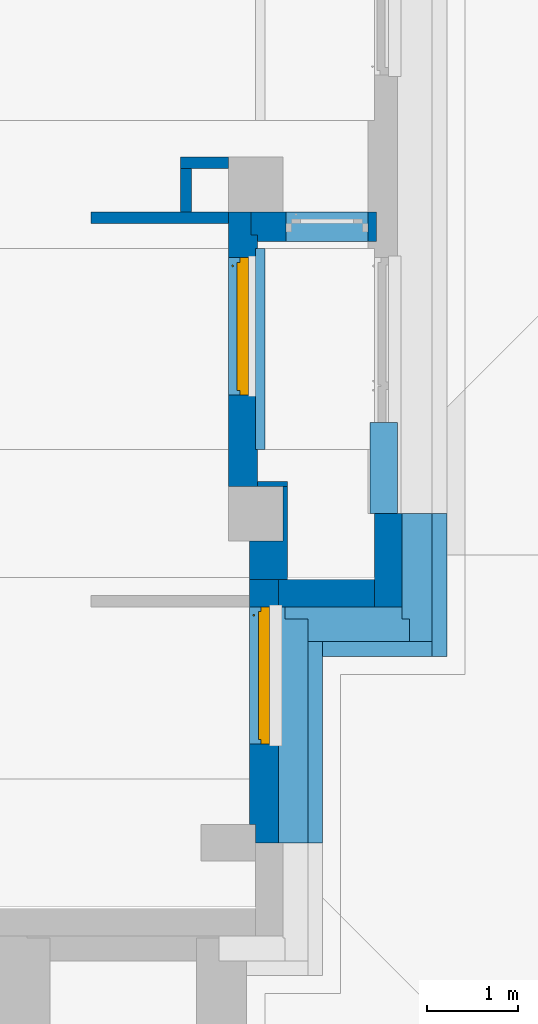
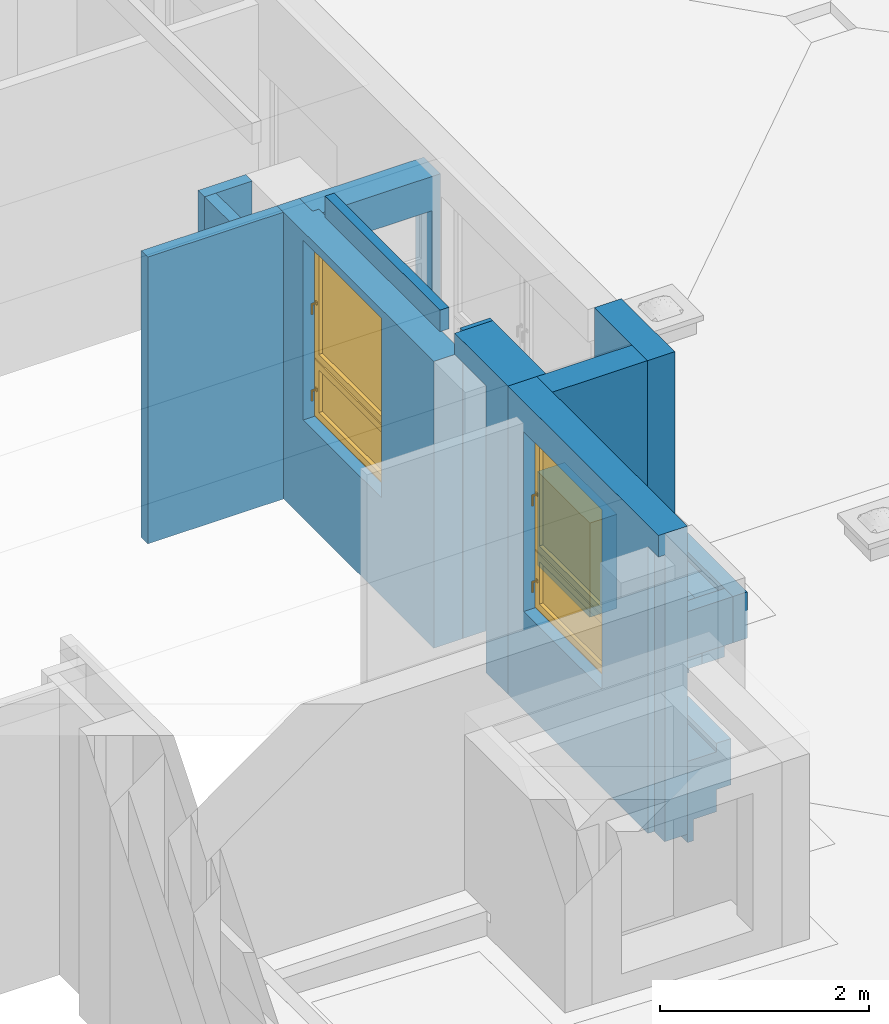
# One storey, part 24 of 50: 15 walls, 2 windows, 3 openings.
"""IFC4 building model written with IfcOpenShell, lengths in metres."""

from ifc_helpers import new_model, entity, si_unit, converted_unit, derived_unit, frame, frame_2d, origin, origin_with_axes, place, context, subcontext, project, spatial, polyline, rectangle, outline, extrude, clip, bounded_halfspace, closed_shell, open_shell, surface_model, source, transform, mapped, material, layer, layer_set, layer_usage, element, fill, save


model = new_model("IFC4")

# Units and contexts
model_context = context("Model", 3, precision=1e-05, world=origin())
body_context = subcontext(model_context, "Body", "Model", "MODEL_VIEW")
ifc_project = project(units=[si_unit("LENGTHUNIT", "METRE"), si_unit("AREAUNIT", "SQUARE_METRE"), si_unit("VOLUMEUNIT", "CUBIC_METRE"), si_unit("MASSUNIT", "GRAM", prefix="KILO"), converted_unit("PLANEANGLEUNIT", "DEGREE", entity("IfcPlaneAngleMeasure", 0.0174532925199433), si_unit("PLANEANGLEUNIT", "RADIAN"), dimensions=[0, 0, 0, 0, 0, 0, 0]), derived_unit("THERMALTRANSMITTANCEUNIT", [(si_unit("POWERUNIT", "WATT"), 1), (si_unit("THERMODYNAMICTEMPERATUREUNIT", "KELVIN"), -1), (si_unit("LENGTHUNIT", "METRE"), -2)]), derived_unit("VOLUMETRICFLOWRATEUNIT", [(si_unit("LENGTHUNIT", "METRE"), 3), (converted_unit("TIMEUNIT", "hour", entity("IfcTimeMeasure", 3600.0), si_unit("TIMEUNIT", "SECOND"), dimensions=[0, 0, 1, 0, 0, 0, 0]), -1), (si_unit("LENGTHUNIT", "METRE"), -1)])], contexts=[model_context])

# Site, building, storey
site_placement = place(None, origin())
site = spatial("IfcSite", under=ifc_project, at=site_placement, Name="3. ASŘ", CompositionType="ELEMENT")
building_placement = place(site_placement, origin())
building = spatial("IfcBuilding", under=site, at=building_placement, Name="Pavilon C", CompositionType="ELEMENT")
storey_placement = place(building_placement, frame((0.0, 0.0, 3.6)))
storey = spatial("IfcBuildingStorey", under=building, at=storey_placement, Name="Půdorys 2.NP", CompositionType="ELEMENT", Elevation=3.6)

# Wall, opening, window
ifc_material_1 = material(Name="PLYNOSILIKÁT")
ifc_layer_1 = layer(ifc_material_1, 0.32)
ifc_layer_set_1 = layer_set([ifc_layer_1])
ifc_layer_usage_1 = layer_usage(ifc_layer_set_1, "AXIS2", "POSITIVE", 0.0)
wall_1_placement = place(storey_placement, frame((50.2, -5.51980683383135e-15, -0.1), z_axis=(0.0, 0.0, 1.0), x_axis=(0.0, 1.0, 0.0)))
wall_1 = element("IfcWall", 1, at=wall_1_placement, inside=storey, material=ifc_layer_usage_1, Name="PLYNOSILIKÁT", context=body_context, shape_type="Clipping", body=[
    clip(extrude(rectangle(XDim=2.88, YDim=0.32, at=frame_2d((1.44, 0.16), x_axis=(1.0, 0.0))), origin_with_axes(), (0.0, 0.0, 1.0), 3.6), bounded_halfspace(frame((0.0999999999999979, 0.285, 3.35), z_axis=(0.0, 0.0, 1.0), x_axis=(0.0, 1.0, 0.0)), True, origin_with_axes(), polyline([(0.199999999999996, 0.25), (0.199999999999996, 0.32), (6.28386231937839e-17, 0.32), (6.28386231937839e-17, 0.25), (0.199999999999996, 0.25)]))),
])
opening_1_placement = place(wall_1_placement, frame((1.08, 0.0, 1.15), z_axis=(0.0, 1.0, 0.0), x_axis=(0.0, 0.0, 1.0)))
opening_1 = element("IfcOpeningElement", 2, at=opening_1_placement, cuts=wall_1, Name="Okenní otvor", ObjectType="Opening", context=body_context, shape_type="SweptSolid", body=[
    extrude(outline(polyline([(0.0, 1.5), (2.1, 1.5), (2.1, 0.0), (0.0, 0.0), (0.0, 1.5)])), origin_with_axes(), (0.0, 0.0, 1.0), 0.32),
])
shared_shape = source(origin_with_axes(), body_context, "Body", "SurfaceModel", [
    surface_model("IfcShellBasedSurfaceModel", [(0.0, 0.182, 2.1), (0.0, 0.182, -5.63337527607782e-18), (0.08, 0.182, -5.63337527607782e-18), (0.08, 0.182, 2.1), (0.0, 0.09, 5.63337527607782e-18), (0.0, 0.0900000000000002, 2.1), (0.08, 0.0900000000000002, 2.1), (0.08, 0.09, 5.63337527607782e-18)], [closed_shell([[[0, 1, 2, 3]], [[4, 5, 6, 7]], [[1, 0, 5, 4]], [[2, 1, 4, 7]], [[3, 2, 7, 6]], [[0, 3, 6, 5]]], orient=[[False], [False], [False], [False], [False], [False]])]),
    surface_model("IfcShellBasedSurfaceModel", [(1.42, 0.182, 2.1), (1.42, 0.182, -5.63337527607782e-18), (1.5, 0.182, -5.63337527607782e-18), (1.5, 0.182, 2.1), (1.42, 0.09, 5.63337527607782e-18), (1.42, 0.0900000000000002, 2.1), (1.5, 0.0900000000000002, 2.1), (1.5, 0.09, 5.63337527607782e-18)], [closed_shell([[[0, 1, 2, 3]], [[4, 5, 6, 7]], [[1, 0, 5, 4]], [[2, 1, 4, 7]], [[3, 2, 7, 6]], [[0, 3, 6, 5]]], orient=[[False], [False], [False], [False], [False], [False]])]),
    surface_model("IfcShellBasedSurfaceModel", [(0.08, 0.182, 0.08), (0.08, 0.182, -5.63337527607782e-18), (1.42, 0.182, -5.63337527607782e-18), (1.42, 0.182, 0.08), (0.08, 0.09, 5.63337527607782e-18), (0.08, 0.09, 0.08), (1.42, 0.09, 0.08), (1.42, 0.09, 5.63337527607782e-18)], [closed_shell([[[0, 1, 2, 3]], [[4, 5, 6, 7]], [[1, 0, 5, 4]], [[2, 1, 4, 7]], [[3, 2, 7, 6]], [[0, 3, 6, 5]]], orient=[[False], [False], [False], [False], [False], [False]])]),
    surface_model("IfcShellBasedSurfaceModel", [(0.08, 0.182, 2.1), (0.08, 0.182, 2.02), (1.42, 0.182, 2.02), (1.42, 0.182, 2.1), (0.08, 0.0900000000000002, 2.02), (0.08, 0.0900000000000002, 2.1), (1.42, 0.0900000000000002, 2.1), (1.42, 0.0900000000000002, 2.02)], [closed_shell([[[0, 1, 2, 3]], [[4, 5, 6, 7]], [[1, 0, 5, 4]], [[2, 1, 4, 7]], [[3, 2, 7, 6]], [[0, 3, 6, 5]]], orient=[[False], [False], [False], [False], [False], [False]])]),
    surface_model("IfcShellBasedSurfaceModel", [(0.08, 0.182, 0.76), (0.08, 0.182, 0.68), (1.42, 0.182, 0.68), (1.42, 0.182, 0.76), (0.08, 0.09, 0.68), (0.08, 0.09, 0.76), (1.42, 0.09, 0.76), (1.42, 0.09, 0.68)], [closed_shell([[[0, 1, 2, 3]], [[4, 5, 6, 7]], [[1, 0, 5, 4]], [[2, 1, 4, 7]], [[3, 2, 7, 6]], [[0, 3, 6, 5]]], orient=[[False], [False], [False], [False], [False], [False]])]),
    surface_model("IfcShellBasedSurfaceModel", [(0.05, 0.145, 0.71), (0.05, 0.145, 0.05), (0.13, 0.145, 0.05), (0.13, 0.145, 0.71), (0.05, 0.06, 0.05), (0.05, 0.06, 0.71), (0.13, 0.06, 0.71), (0.13, 0.06, 0.05)], [closed_shell([[[0, 1, 2, 3]], [[4, 5, 6, 7]], [[1, 0, 5, 4]], [[2, 1, 4, 7]], [[3, 2, 7, 6]], [[0, 3, 6, 5]]], orient=[[False], [False], [False], [False], [False], [False]])]),
    surface_model("IfcShellBasedSurfaceModel", [(1.37, 0.145, 0.71), (1.37, 0.145, 0.05), (1.45, 0.145, 0.05), (1.45, 0.145, 0.71), (1.37, 0.06, 0.05), (1.37, 0.06, 0.71), (1.45, 0.06, 0.71), (1.45, 0.06, 0.05)], [closed_shell([[[0, 1, 2, 3]], [[4, 5, 6, 7]], [[1, 0, 5, 4]], [[2, 1, 4, 7]], [[3, 2, 7, 6]], [[0, 3, 6, 5]]], orient=[[False], [False], [False], [False], [False], [False]])]),
    surface_model("IfcShellBasedSurfaceModel", [(0.13, 0.145, 0.13), (0.13, 0.145, 0.05), (1.37, 0.145, 0.05), (1.37, 0.145, 0.13), (0.13, 0.06, 0.05), (0.13, 0.06, 0.13), (1.37, 0.06, 0.13), (1.37, 0.06, 0.05)], [closed_shell([[[0, 1, 2, 3]], [[4, 5, 6, 7]], [[1, 0, 5, 4]], [[2, 1, 4, 7]], [[3, 2, 7, 6]], [[0, 3, 6, 5]]], orient=[[False], [False], [False], [False], [False], [False]])]),
    surface_model("IfcShellBasedSurfaceModel", [(0.13, 0.145, 0.71), (0.13, 0.145, 0.63), (1.37, 0.145, 0.63), (1.37, 0.145, 0.71), (0.13, 0.06, 0.63), (0.13, 0.06, 0.71), (1.37, 0.06, 0.71), (1.37, 0.06, 0.63)], [closed_shell([[[0, 1, 2, 3]], [[4, 5, 6, 7]], [[1, 0, 5, 4]], [[2, 1, 4, 7]], [[3, 2, 7, 6]], [[0, 3, 6, 5]]], orient=[[False], [False], [False], [False], [False], [False]])]),
    surface_model("IfcShellBasedSurfaceModel", [(0.0775, 0.06, 0.4), (0.0775, 0.06, 0.36), (0.1025, 0.06, 0.36), (0.1025, 0.06, 0.4), (0.0775, 0.05, 0.36), (0.0775, 0.05, 0.4), (0.1025, 0.05, 0.4), (0.1025, 0.05, 0.36)], [closed_shell([[[0, 1, 2, 3]], [[4, 5, 6, 7]], [[1, 0, 5, 4]], [[2, 1, 4, 7]], [[3, 2, 7, 6]], [[0, 3, 6, 5]]], orient=[[False], [False], [False], [False], [False], [False]])]),
    surface_model("IfcShellBasedSurfaceModel", [(0.1, 0.05, 0.38), (0.0986602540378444, 0.05, 0.385), (0.095, 0.05, 0.388660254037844), (0.09, 0.05, 0.39), (0.085, 0.05, 0.388660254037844), (0.0813397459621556, 0.05, 0.385), (0.08, 0.05, 0.38), (0.0813397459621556, 0.05, 0.375), (0.085, 0.05, 0.371339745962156), (0.09, 0.05, 0.37), (0.095, 0.05, 0.371339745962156), (0.0986602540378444, 0.05, 0.375), (0.1, 0.01, 0.38), (0.0986602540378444, 0.00500000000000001, 0.385), (0.095, 0.00133974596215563, 0.388660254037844), (0.09, 2.8421709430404e-17, 0.39), (0.085, 0.00133974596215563, 0.388660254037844), (0.0813397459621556, 0.00500000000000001, 0.385), (0.08, 0.01, 0.38), (0.0813397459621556, 0.015, 0.375), (0.085, 0.0186602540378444, 0.371339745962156), (0.09, 0.02, 0.37), (0.095, 0.0186602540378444, 0.371339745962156), (0.0986602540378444, 0.015, 0.375), (0.1, 0.01, 0.265), (0.0986602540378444, 0.005, 0.265), (0.095, 0.0013397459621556, 0.265), (0.09, 0.0, 0.265), (0.085, 0.0013397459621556, 0.265), (0.0813397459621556, 0.005, 0.265), (0.08, 0.01, 0.265), (0.0813397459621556, 0.015, 0.265), (0.085, 0.0186602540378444, 0.265), (0.09, 0.02, 0.265), (0.095, 0.0186602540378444, 0.265), (0.0986602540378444, 0.015, 0.265)], [open_shell([[[0, 1, 2, 3, 4, 5, 6, 7, 8, 9, 10, 11]], [[0, 12, 13, 1]], [[1, 13, 14, 2]], [[2, 14, 15, 3]], [[3, 15, 16, 4]], [[4, 16, 17, 5]], [[5, 17, 18, 6]], [[6, 18, 19, 7]], [[7, 19, 20, 8]], [[8, 20, 21, 9]], [[9, 21, 22, 10]], [[10, 22, 23, 11]], [[11, 23, 12, 0]], [[12, 24, 25, 13]], [[13, 25, 26, 14]], [[14, 26, 27, 15]], [[15, 27, 28, 16]], [[16, 28, 29, 17]], [[17, 29, 30, 18]], [[18, 30, 31, 19]], [[19, 31, 32, 20]], [[20, 32, 33, 21]], [[21, 33, 34, 22]], [[22, 34, 35, 23]], [[23, 35, 24, 12]]], orient=[[False], [False], [False], [False], [False], [False], [False], [False], [False], [False], [False], [False], [False], [False], [False], [False], [False], [False], [False], [False], [False], [False], [False], [False], [False]])]),
    surface_model("IfcShellBasedSurfaceModel", [(0.05, 0.145, 2.05), (0.05, 0.145, 0.73), (0.13, 0.145, 0.73), (0.13, 0.145, 2.05), (0.05, 0.06, 0.73), (0.05, 0.0600000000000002, 2.05), (0.13, 0.0600000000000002, 2.05), (0.13, 0.06, 0.73)], [closed_shell([[[0, 1, 2, 3]], [[4, 5, 6, 7]], [[1, 0, 5, 4]], [[2, 1, 4, 7]], [[3, 2, 7, 6]], [[0, 3, 6, 5]]], orient=[[False], [False], [False], [False], [False], [False]])]),
    surface_model("IfcShellBasedSurfaceModel", [(1.37, 0.145, 2.05), (1.37, 0.145, 0.73), (1.45, 0.145, 0.73), (1.45, 0.145, 2.05), (1.37, 0.06, 0.73), (1.37, 0.0600000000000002, 2.05), (1.45, 0.0600000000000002, 2.05), (1.45, 0.06, 0.73)], [closed_shell([[[0, 1, 2, 3]], [[4, 5, 6, 7]], [[1, 0, 5, 4]], [[2, 1, 4, 7]], [[3, 2, 7, 6]], [[0, 3, 6, 5]]], orient=[[False], [False], [False], [False], [False], [False]])]),
    surface_model("IfcShellBasedSurfaceModel", [(0.13, 0.145, 0.81), (0.13, 0.145, 0.73), (1.37, 0.145, 0.73), (1.37, 0.145, 0.81), (0.13, 0.06, 0.73), (0.13, 0.0600000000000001, 0.81), (1.37, 0.0600000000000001, 0.81), (1.37, 0.06, 0.73)], [closed_shell([[[0, 1, 2, 3]], [[4, 5, 6, 7]], [[1, 0, 5, 4]], [[2, 1, 4, 7]], [[3, 2, 7, 6]], [[0, 3, 6, 5]]], orient=[[False], [False], [False], [False], [False], [False]])]),
    surface_model("IfcShellBasedSurfaceModel", [(0.13, 0.145, 2.05), (0.13, 0.145, 1.97), (1.37, 0.145, 1.97), (1.37, 0.145, 2.05), (0.13, 0.0600000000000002, 1.97), (0.13, 0.0600000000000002, 2.05), (1.37, 0.0600000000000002, 2.05), (1.37, 0.0600000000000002, 1.97)], [closed_shell([[[0, 1, 2, 3]], [[4, 5, 6, 7]], [[1, 0, 5, 4]], [[2, 1, 4, 7]], [[3, 2, 7, 6]], [[0, 3, 6, 5]]], orient=[[False], [False], [False], [False], [False], [False]])]),
    surface_model("IfcShellBasedSurfaceModel", [(0.0775, 0.0600000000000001, 1.41), (0.0775, 0.0600000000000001, 1.37), (0.1025, 0.0600000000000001, 1.37), (0.1025, 0.0600000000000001, 1.41), (0.0775, 0.0500000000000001, 1.37), (0.0775, 0.0500000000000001, 1.41), (0.1025, 0.0500000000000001, 1.41), (0.1025, 0.0500000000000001, 1.37)], [closed_shell([[[0, 1, 2, 3]], [[4, 5, 6, 7]], [[1, 0, 5, 4]], [[2, 1, 4, 7]], [[3, 2, 7, 6]], [[0, 3, 6, 5]]], orient=[[False], [False], [False], [False], [False], [False]])]),
    surface_model("IfcShellBasedSurfaceModel", [(0.1, 0.0500000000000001, 1.39), (0.0986602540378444, 0.0500000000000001, 1.395), (0.095, 0.0500000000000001, 1.39866025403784), (0.09, 0.0500000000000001, 1.4), (0.085, 0.0500000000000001, 1.39866025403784), (0.0813397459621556, 0.0500000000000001, 1.395), (0.08, 0.0500000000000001, 1.39), (0.0813397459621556, 0.0500000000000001, 1.385), (0.085, 0.0500000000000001, 1.38133974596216), (0.09, 0.0500000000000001, 1.38), (0.095, 0.0500000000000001, 1.38133974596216), (0.0986602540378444, 0.0500000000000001, 1.385), (0.1, 0.0100000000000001, 1.39), (0.0986602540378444, 0.00500000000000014, 1.395), (0.095, 0.00133974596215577, 1.39866025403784), (0.09, 1.4210854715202e-16, 1.4), (0.085, 0.00133974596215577, 1.39866025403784), (0.0813397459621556, 0.00500000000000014, 1.395), (0.08, 0.0100000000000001, 1.39), (0.0813397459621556, 0.0150000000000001, 1.385), (0.085, 0.0186602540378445, 1.38133974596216), (0.09, 0.0200000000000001, 1.38), (0.095, 0.0186602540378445, 1.38133974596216), (0.0986602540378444, 0.0150000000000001, 1.385), (0.1, 0.0100000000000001, 1.275), (0.0986602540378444, 0.00500000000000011, 1.275), (0.095, 0.00133974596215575, 1.275), (0.09, 1.13686837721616e-16, 1.275), (0.085, 0.00133974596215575, 1.275), (0.0813397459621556, 0.00500000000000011, 1.275), (0.08, 0.0100000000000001, 1.275), (0.0813397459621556, 0.0150000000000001, 1.275), (0.085, 0.0186602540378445, 1.275), (0.09, 0.0200000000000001, 1.275), (0.095, 0.0186602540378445, 1.275), (0.0986602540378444, 0.0150000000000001, 1.275)], [open_shell([[[0, 1, 2, 3, 4, 5, 6, 7, 8, 9, 10, 11]], [[0, 12, 13, 1]], [[1, 13, 14, 2]], [[2, 14, 15, 3]], [[3, 15, 16, 4]], [[4, 16, 17, 5]], [[5, 17, 18, 6]], [[6, 18, 19, 7]], [[7, 19, 20, 8]], [[8, 20, 21, 9]], [[9, 21, 22, 10]], [[10, 22, 23, 11]], [[11, 23, 12, 0]], [[12, 24, 25, 13]], [[13, 25, 26, 14]], [[14, 26, 27, 15]], [[15, 27, 28, 16]], [[16, 28, 29, 17]], [[17, 29, 30, 18]], [[18, 30, 31, 19]], [[19, 31, 32, 20]], [[20, 32, 33, 21]], [[21, 33, 34, 22]], [[22, 34, 35, 23]], [[23, 35, 24, 12]]], orient=[[False], [False], [False], [False], [False], [False], [False], [False], [False], [False], [False], [False], [False], [False], [False], [False], [False], [False], [False], [False], [False], [False], [False], [False], [False]])]),
    surface_model("IfcShellBasedSurfaceModel", [(0.13, 0.1025, 0.13), (1.37, 0.1025, 0.13), (1.37, 0.1025, 0.63), (0.13, 0.1025, 0.63)], [open_shell([[[0, 1, 2, 3]]], orient=[[False]])]),
    surface_model("IfcShellBasedSurfaceModel", [(0.13, 0.1025, 0.81), (1.37, 0.1025, 0.81), (1.37, 0.1025, 1.97), (0.13, 0.1025, 1.97)], [open_shell([[[0, 1, 2, 3]]], orient=[[False]])]),
])
window_1_placement = place(opening_1_placement, frame((0.0, 1.5, 0.282000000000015), z_axis=(1.0, 0.0, 0.0), x_axis=(0.0, -1.0, 2.44929359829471e-16)))
window_1 = element("IfcWindow", 3, at=window_1_placement, inside=storey, Name="O06", OverallHeight=2.1, OverallWidth=1.5, PartitioningType="USERDEFINED", PredefinedType="WINDOW", context=body_context, shape_type="MappedRepresentation", body=[
    mapped(shared_shape, transform((0.0, 0.0, 0.0), x_axis=(1.0, 0.0, 0.0), y_axis=(0.0, 1.0, 0.0), z_axis=(0.0, 0.0, 1.0), scale=1.0)),
])
fill(opening_1, window_1)

ifc_material_2 = material(Name="PLYNOSILIKÁT")
ifc_layer_2 = layer(ifc_material_2, 0.32)
ifc_layer_set_2 = layer_set([ifc_layer_2])
ifc_layer_usage_2 = layer_usage(ifc_layer_set_2, "AXIS2", "POSITIVE", 0.0)
wall_2_placement = place(storey_placement, frame((49.65, 6.89999999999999, -0.1), z_axis=(0.0, 0.0, 1.0), x_axis=(0.0, -1.0, 0.0)))
wall_2 = element("IfcWall", 4, at=wall_2_placement, inside=storey, material=ifc_layer_usage_2, Name="PLYNOSILIKÁT", context=body_context, shape_type="SweptSolid", body=[
    extrude(outline(polyline([(-3.0, 0.0), (0.0, 0.0), (0.0, 0.32), (-2.75, 0.32), (-2.75, 0.25), (-3.0, 0.25), (-3.0, 0.0)])), frame((3.0, 0.0, 0.0), z_axis=(0.0, 0.0, 1.0), x_axis=(1.0, 0.0, 0.0)), (0.0, 0.0, 1.0), 3.35),
])
opening_2_placement = place(wall_2_placement, frame((2.0, 0.32, 1.15), z_axis=(0.0, -1.0, 0.0), x_axis=(0.0, 0.0, 1.0)))
opening_2 = element("IfcOpeningElement", 5, at=opening_2_placement, cuts=wall_2, Name="Okenní otvor", ObjectType="Opening", context=body_context, shape_type="SweptSolid", body=[
    extrude(outline(polyline([(0.0, 1.5), (2.1, 1.5), (2.1, 0.0), (0.0, 0.0), (0.0, 1.5)])), origin_with_axes(), (0.0, 0.0, 1.0), 0.32),
])
window_2_placement = place(opening_2_placement, frame((0.0, 1.5, 0.282000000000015), z_axis=(1.0, 0.0, 0.0), x_axis=(0.0, -1.0, 2.44929359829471e-16)))
window_2 = element("IfcWindow", 6, at=window_2_placement, inside=storey, Name="O06", OverallHeight=2.1, OverallWidth=1.5, PartitioningType="USERDEFINED", PredefinedType="WINDOW", context=body_context, shape_type="MappedRepresentation", body=[
    mapped(shared_shape, transform((0.0, 0.0, 0.0), x_axis=(1.0, 0.0, 0.0), y_axis=(0.0, 1.0, 0.0), z_axis=(0.0, 0.0, 1.0), scale=1.0)),
])
fill(opening_2, window_2)

# Wall, opening
ifc_material_3 = material(Name="PLYNOSILIKÁT")
ifc_layer_3 = layer(ifc_material_3, 0.32)
ifc_layer_set_3 = layer_set([ifc_layer_3])
ifc_layer_usage_3 = layer_usage(ifc_layer_set_3, "AXIS2", "POSITIVE", 0.0)
wall_3_placement = place(storey_placement, frame((51.27, 6.89999999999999, -0.1), z_axis=(0.0, 0.0, 1.0), x_axis=(-1.0, 0.0, 0.0)))
wall_3 = element("IfcWall", 7, at=wall_3_placement, inside=storey, material=ifc_layer_usage_3, Name="PLYNOSILIKÁT", context=body_context, shape_type="SweptSolid", body=[
    extrude(outline(polyline([(-1.37, -0.32), (0.0, -0.32), (0.0, -0.07), (-0.07, -0.07), (-0.07, 0.0), (-1.37, 0.0), (-1.37, -0.32)])), frame((1.37, 0.32, 0.0), z_axis=(0.0, 0.0, 1.0), x_axis=(1.0, 0.0, 0.0)), (0.0, 0.0, 1.0), 3.35),
])
opening_3_placement = place(wall_3_placement, frame((0.99, 0.32, 0.2), z_axis=(0.0, -1.0, 0.0), x_axis=(0.0, 0.0, 1.0)))
element("IfcOpeningElement", 8, at=opening_3_placement, cuts=wall_3, Name="Dveřní otvor", ObjectType="Opening", context=body_context, shape_type="SweptSolid", body=[
    extrude(outline(polyline([(0.0, 0.9), (2.75, 0.9), (2.75, 0.0), (0.0, 0.0), (0.0, 0.9)])), origin_with_axes(), (0.0, 0.0, 1.0), 0.32),
])

# Walls
ifc_material_4 = material(Name="ZELEZOBETONOVÁ KCE")
ifc_layer_4 = layer(ifc_material_4, 0.3)
ifc_layer_set_4 = layer_set([ifc_layer_4])
ifc_layer_usage_4 = layer_usage(ifc_layer_set_4, "AXIS2", "POSITIVE", 0.0)
wall_4_placement = place(storey_placement, frame((50.2, 2.58, -0.1)))
element("IfcWall", 9, at=wall_4_placement, inside=storey, material=ifc_layer_usage_4, Name="ZELEZOBETONOVÁ KCE", context=body_context, shape_type="SweptSolid", body=[
    extrude(rectangle(XDim=1.05, YDim=0.3, at=frame_2d((0.525, 0.15), x_axis=(1.0, 0.0))), origin_with_axes(), (0.0, 0.0, 1.0), 3.6),
])
ifc_material_5 = material(Name="PLYNOSILIKÁT")
ifc_layer_5 = layer(ifc_material_5, 0.42)
ifc_layer_set_5 = layer_set([ifc_layer_5])
ifc_layer_usage_5 = layer_usage(ifc_layer_set_5, "AXIS2", "POSITIVE", 0.0)
wall_5_placement = place(storey_placement, frame((49.88, 3.89999999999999, -0.1), z_axis=(0.0, 0.0, 1.0), x_axis=(0.0, -1.0, 0.0)))
element("IfcWall", 10, at=wall_5_placement, inside=storey, material=ifc_layer_usage_5, Name="PLYNOSILIKÁT", context=body_context, shape_type="Clipping", body=[
    clip(extrude(rectangle(XDim=1.02, YDim=0.42, at=frame_2d((0.509999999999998, 0.21), x_axis=(1.0, 0.0))), origin_with_axes(), (0.0, 0.0, 1.0), 3.6), bounded_halfspace(frame((0.3, 0.184999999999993, 3.35), z_axis=(0.0, 0.0, 1.0), x_axis=(1.0, -1.2126596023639e-14, 0.0)), True, origin_with_axes(), polyline([(0.0, 0.0), (0.6, -7.27595761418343e-15), (0.6, 0.369999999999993), (0.0, 0.369999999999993), (0.0, 0.0)]))),
])
ifc_material_6 = material(Name="PLYNOSILIKÁT")
ifc_layer_6 = layer(ifc_material_6, 0.05)
ifc_layer_set_6 = layer_set([ifc_layer_6])
ifc_layer_usage_6 = layer_usage(ifc_layer_set_6, "AXIS2", "POSITIVE", 0.0)
wall_6_placement = place(storey_placement, frame((49.97, 3.89999999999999, -0.1)))
element("IfcWall", 11, at=wall_6_placement, inside=storey, material=ifc_layer_usage_6, Name="PLYNOSILIKÁT", context=body_context, shape_type="SweptSolid", body=[
    extrude(rectangle(XDim=0.33, YDim=0.05, at=frame_2d((0.165, 0.025), x_axis=(1.0, 0.0))), origin_with_axes(), (0.0, 0.0, 1.0), 3.6),
])
ifc_material_7 = material(Name="ZELEZOBETONOVÁ KCE")
ifc_layer_7 = layer(ifc_material_7, 0.3)
ifc_layer_set_7 = layer_set([ifc_layer_7])
ifc_layer_usage_7 = layer_usage(ifc_layer_set_7, "AXIS2", "POSITIVE", 0.0)
wall_7_placement = place(storey_placement, frame((51.55, 2.58, -0.1), z_axis=(0.0, 0.0, 1.0), x_axis=(0.0, 1.0, 0.0)))
element("IfcWall", 12, at=wall_7_placement, inside=storey, material=ifc_layer_usage_7, Name="ZELEZOBETONOVÁ KCE", context=body_context, shape_type="SweptSolid", body=[
    extrude(rectangle(XDim=1.02, YDim=0.3, at=frame_2d((0.51, 0.15), x_axis=(1.0, 0.0))), origin_with_axes(), (0.0, 0.0, 1.0), 3.6),
])
ifc_material_8 = material(Name="ZDIVO Z CDm")
ifc_layer_8 = layer(ifc_material_8, 0.125)
ifc_layer_set_8 = layer_set([ifc_layer_8])
ifc_layer_usage_8 = layer_usage(ifc_layer_set_8, "AXIS2", "POSITIVE", 0.0)
wall_8_placement = place(storey_placement, frame((49.65, 6.89999999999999, -0.1), z_axis=(0.0, 0.0, 1.0), x_axis=(-1.0, 0.0, 0.0)))
element("IfcWall", 13, at=wall_8_placement, inside=storey, material=ifc_layer_usage_8, Name="ZDIVO Z CDm", context=body_context, shape_type="SweptSolid", body=[
    extrude(rectangle(XDim=1.5, YDim=0.125, at=frame_2d((0.75, 0.0625), x_axis=(1.0, 0.0))), origin_with_axes(), (0.0, 0.0, 1.0), 3.35),
])
ifc_material_9 = material(Name="ZDIVO Z CDm")
ifc_layer_9 = layer(ifc_material_9, 0.125)
ifc_layer_set_9 = layer_set([ifc_layer_9])
ifc_layer_usage_9 = layer_usage(ifc_layer_set_9, "AXIS2", "POSITIVE", 0.0)
wall_9_placement = place(storey_placement, frame((49.65, 7.49999999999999, -0.1), z_axis=(0.0, 0.0, 1.0), x_axis=(-1.0, 0.0, 0.0)))
element("IfcWall", 14, at=wall_9_placement, inside=storey, material=ifc_layer_usage_9, Name="ZDIVO Z CDm", context=body_context, shape_type="SweptSolid", body=[
    extrude(rectangle(XDim=0.525, YDim=0.125, at=frame_2d((0.2625, 0.0625), x_axis=(1.0, 0.0))), origin_with_axes(), (0.0, 0.0, 1.0), 3.35),
])
ifc_material_10 = material(Name="ZDIVO Z CDm")
ifc_layer_10 = layer(ifc_material_10, 0.125)
ifc_layer_set_10 = layer_set([ifc_layer_10])
ifc_layer_usage_10 = layer_usage(ifc_layer_set_10, "AXIS2", "POSITIVE", 0.0)
wall_10_placement = place(storey_placement, frame((49.125, 7.37499999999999, -0.1), z_axis=(0.0, 0.0, 1.0), x_axis=(0.0, -1.0, 0.0)))
element("IfcWall", 15, at=wall_10_placement, inside=storey, material=ifc_layer_usage_10, Name="ZDIVO Z CDm", context=body_context, shape_type="SweptSolid", body=[
    extrude(rectangle(XDim=0.475000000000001, YDim=0.125, at=frame_2d((0.2375, 0.0625), x_axis=(1.0, 0.0))), origin_with_axes(), (0.0, 0.0, 1.0), 3.35),
])
ifc_material_11 = material(Name="EPS")
ifc_layer_11 = layer(ifc_material_11, 0.1)
ifc_layer_set_11 = layer_set([ifc_layer_11])
ifc_layer_usage_11 = layer_usage(ifc_layer_set_11, "AXIS2", "POSITIVE", 0.0)
wall_11_placement = place(storey_placement, frame((49.95, 6.49999999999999, 3.25), z_axis=(0.0, 0.0, 1.0), x_axis=(0.0, -1.0, 0.0)))
element("IfcWall", 16, at=wall_11_placement, inside=storey, material=ifc_layer_usage_11, Name="EPS", context=body_context, shape_type="SweptSolid", body=[
    extrude(rectangle(XDim=2.2, YDim=0.1, at=frame_2d((1.1, 0.05), x_axis=(1.0, 0.0))), origin_with_axes(), (0.0, 0.0, 1.0), 0.25),
])
ifc_material_12 = material(Name="YTONG 300")
ifc_layer_12 = layer(ifc_material_12, 0.3)
ifc_layer_set_12 = layer_set([ifc_layer_12])
ifc_layer_usage_12 = layer_usage(ifc_layer_set_12, "AXIS2", "POSITIVE", 0.0)
wall_12_placement = place(storey_placement, frame((51.5, 3.6, -0.1), z_axis=(0.0, 0.0, 1.0), x_axis=(0.0, 1.0, 0.0)))
element("IfcWall", 17, at=wall_12_placement, inside=storey, material=ifc_layer_usage_12, Name="YTONG 300", context=body_context, shape_type="SweptSolid", body=[
    extrude(rectangle(XDim=0.999999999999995, YDim=0.3, at=frame_2d((0.499999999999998, 0.15), x_axis=(1.0, 0.0))), origin_with_axes(), (0.0, 0.0, 1.0), 1.1),
])
ifc_material_13 = material(Name="EPS")
ifc_layer_13 = layer(ifc_material_13, 0.13)
ifc_material_14 = material(Name="ZELEZOBETONOVÁ KCE")
ifc_layer_14 = layer(ifc_material_14, 0.25)
ifc_material_15 = material(Name="MINERÁLNÍ VATA")
ifc_layer_15 = layer(ifc_material_15, 0.16)
ifc_layer_set_13 = layer_set([ifc_layer_13, ifc_layer_14, ifc_layer_15])
ifc_layer_usage_13 = layer_usage(ifc_layer_set_13, "AXIS2", "POSITIVE", -0.13)
wall_13_placement = place(storey_placement, frame((51.55, 2.58, -0.2), z_axis=(0.0, 0.0, 1.0), x_axis=(-1.0, 0.0, 0.0)))
element("IfcWall", 18, at=wall_13_placement, inside=storey, material=ifc_layer_usage_13, Name="MINERÁLNÍ VATA", context=body_context, shape_type="Clipping", body=[
    clip(clip(clip(extrude(outline(polyline([(-1.28, -0.54), (0.0, -0.54), (0.0, -0.41), (-0.25, -0.41), (-0.25, -0.16), (-0.41, -0.16), (-0.41, 0.0), (-1.61, 0.0), (-1.61, -0.16), (-1.36, -0.16), (-1.36, -0.41), (-1.28, -0.41), (-1.28, -0.54)])), frame((1.28, 0.54, 0.0), z_axis=(0.0, 0.0, 1.0), x_axis=(1.0, 0.0, 0.0)), (0.0, 0.0, 1.0), 1.05), bounded_halfspace(frame((0.38, 0.23, 0.25), z_axis=(0.0, 0.0, 1.0), x_axis=(0.0, -1.0, 0.0)), True, origin_with_axes(), polyline([(-0.08, 0.38), (-0.08, 0.13), (-7.27595761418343e-15, 0.13), (1.03, 0.13), (1.03, 0.38), (-0.08, 0.38)]))), bounded_halfspace(frame((0.2, 0.444, 0.510000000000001), z_axis=(0.0, 0.0, 1.0), x_axis=(0.0, -1.0, 0.0)), True, origin_with_axes(), polyline([(-0.33, 0.54), (-0.33, 0.38), (-0.08, 0.38), (0.87, 0.38), (0.87, 0.54), (-0.33, 0.54)]))), bounded_halfspace(frame((0.592222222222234, 0.184444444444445, 0.95), z_axis=(0.0, 0.0, -1.0), x_axis=(1.0, 0.0, 0.0)), True, origin_with_axes(), polyline([(-7.27595761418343e-15, 0.0), (1.27999999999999, 0.0), (1.27999999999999, 0.13), (1.03, 0.13), (1.03, 0.38), (0.87, 0.38), (-0.08, 0.38), (-0.08, 0.13), (-7.27595761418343e-15, 0.13), (-7.27595761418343e-15, 0.0)]))),
])
ifc_material_16 = material(Name="EPS")
ifc_layer_16 = layer(ifc_material_16, 0.07)
ifc_material_17 = material(Name="ZELEZOBETONOVÁ KCE")
ifc_layer_17 = layer(ifc_material_17, 0.25)
ifc_material_18 = material(Name="MINERÁLNÍ VATA")
ifc_layer_18 = layer(ifc_material_18, 0.16)
ifc_layer_set_14 = layer_set([ifc_layer_16, ifc_layer_17, ifc_layer_18])
ifc_layer_usage_14 = layer_usage(ifc_layer_set_14, "AXIS2", "POSITIVE", -0.07)
wall_14_placement = place(storey_placement, frame((50.2, 2.58, -0.2), z_axis=(0.0, 0.0, 1.0), x_axis=(0.0, -1.0, 0.0)))
element("IfcWall", 19, at=wall_14_placement, inside=storey, material=ifc_layer_usage_14, Name="MINERÁLNÍ VATA", context=body_context, shape_type="Clipping", body=[
    clip(clip(clip(extrude(outline(polyline([(-2.2, 0.48), (-2.2, 0.32), (-2.45, 0.32), (-2.45, 0.07), (-2.58, 0.07), (-2.58, 0.0), (0.0, 0.0), (-3.14193115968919e-17, 0.48), (-2.2, 0.48)])), frame((2.58, 0.0, 0.0), z_axis=(0.0, 0.0, 1.0), x_axis=(1.0, 0.0, 0.0)), (0.0, 0.0, 1.0), 1.05), bounded_halfspace(frame((1.355, 0.195000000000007, 0.25), z_axis=(0.0, 0.0, 1.0), x_axis=(0.0, -1.0, 0.0)), True, origin_with_axes(), polyline([(0.13, 0.320000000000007), (0.13, 0.0700000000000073), (2.58, 0.07), (2.58, 0.320000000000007), (0.13, 0.320000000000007)]))), bounded_halfspace(frame((1.48, 0.400000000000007, 0.51), z_axis=(0.0, 0.0, 1.0), x_axis=(0.0, -1.0, 0.0)), True, origin_with_axes(), polyline([(0.38, 0.480000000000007), (0.38, 0.320000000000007), (2.58, 0.320000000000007), (2.58, 0.480000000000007), (0.38, 0.480000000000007)]))), bounded_halfspace(frame((0.828571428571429, 0.157142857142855, 0.95), z_axis=(0.0, 0.0, -1.0), x_axis=(1.0, 0.0, 0.0)), True, origin_with_axes(), polyline([(0.0, 0.0), (2.58, 0.0), (2.58, 0.320000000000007), (0.38, 0.320000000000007), (0.13, 0.320000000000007), (0.13, 0.07), (0.0, 0.07), (0.0, 0.0)]))),
])
ifc_material_19 = material(Name="EPS")
ifc_layer_19 = layer(ifc_material_19, 0.08)
ifc_material_20 = material(Name="ZELEZOBETONOVÁ KCE")
ifc_layer_20 = layer(ifc_material_20, 0.25)
ifc_material_21 = material(Name="MINERÁLNÍ VATA")
ifc_layer_21 = layer(ifc_material_21, 0.16)
ifc_layer_set_15 = layer_set([ifc_layer_19, ifc_layer_20, ifc_layer_21])
ifc_layer_usage_15 = layer_usage(ifc_layer_set_15, "AXIS2", "POSITIVE", -0.08)
wall_15_placement = place(storey_placement, frame((51.55, 3.6, -0.2), z_axis=(0.0, 0.0, 1.0), x_axis=(0.0, -1.0, 0.0)))
element("IfcWall", 20, at=wall_15_placement, inside=storey, material=ifc_layer_usage_15, Name="MINERÁLNÍ VATA", context=body_context, shape_type="Clipping", body=[
    clip(clip(clip(extrude(outline(polyline([(-1.56, 0.0), (-0.41, 0.0), (-0.41, 0.08), (-0.16, 0.08), (-0.16, 0.33), (0.0, 0.33), (0.0, 0.49), (-1.56, 0.49), (-1.56, 0.0)])), frame((1.56, 0.0, 0.0), z_axis=(0.0, 0.0, 1.0), x_axis=(1.0, 0.0, 0.0)), (0.0, 0.0, 1.0), 1.05), bounded_halfspace(frame((0.79, 0.180000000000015, 0.25), z_axis=(0.0, 0.0, 1.0), x_axis=(0.0, -1.0, 0.0)), True, origin_with_axes(), polyline([(0.0, 0.330000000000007), (0.0, 0.08), (1.15, 0.08), (1.4, 0.0800000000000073), (1.4, 0.330000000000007), (0.0, 0.330000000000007)]))), bounded_halfspace(frame((0.904, 0.394000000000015, 0.510000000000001), z_axis=(0.0, 0.0, 1.0), x_axis=(0.0, -1.0, 0.0)), True, origin_with_axes(), polyline([(0.0, 0.490000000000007), (0.0, 0.330000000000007), (1.4, 0.330000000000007), (1.56, 0.330000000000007), (1.56, 0.490000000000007), (0.0, 0.490000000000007)]))), bounded_halfspace(frame((0.850000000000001, 0.136666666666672, 0.95), z_axis=(0.0, 0.0, -1.0), x_axis=(1.0, 0.0, 0.0)), True, origin_with_axes(), polyline([(0.0, 0.0), (1.15, 0.0), (1.15, 0.08), (1.4, 0.0800000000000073), (1.4, 0.330000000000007), (0.0, 0.330000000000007), (0.0, 0.0)]))),
])

save(model, "model.ifc")
